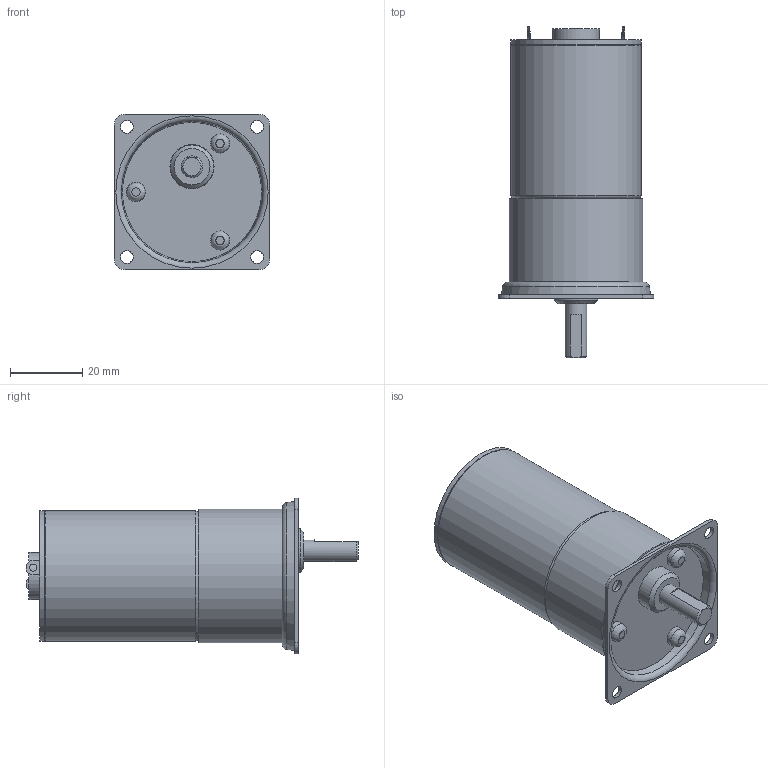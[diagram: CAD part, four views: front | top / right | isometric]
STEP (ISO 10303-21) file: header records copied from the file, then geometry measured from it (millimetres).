
FILE_DESCRIPTION((''),'2;1');
FILE_NAME('C:\Documents and Settings\SSEGAWA\デスクトップ\TP-3644D-PG-3.STP','2013-07-25T17:47:47',('SSEGAWA'),(''),'Autodesk Inventor 2010','Autodesk Inventor 2010','');
FILE_SCHEMA(('CONFIG_CONTROL_DESIGN'));
Length unit declared in the file: millimetre
Products named in the file (1): tp_3644dh_pg-3_Shrinkwrap_1
Bounding box: 43 x 91.8 x 43 mm (x, y, z)
Volume: 72825.4 mm3; surface area: 14111.9 mm2
Topology: 1 solids, 12 shells, 102 faces, 204 edges, 136 vertices
Faces by surface type: plane 46, cylinder 26, bspline 23, cone 4, torus 3
Full cylindrical faces by diameter (mm): 3 x1, 3.5 x1, 4 x3, 5.3 x3, 6 x1, 12 x1, 12.2 x1, 13 x1, 35.6 x1, 36 x2, 37 x1
Entity records: 2762 total; most frequent: CARTESIAN_POINT 828, DIRECTION 385, ORIENTED_EDGE 272, AXIS2_PLACEMENT_3D 171, EDGE_LOOP 169, EDGE_CURVE 136, VERTEX_POINT 113, STYLED_ITEM 103
